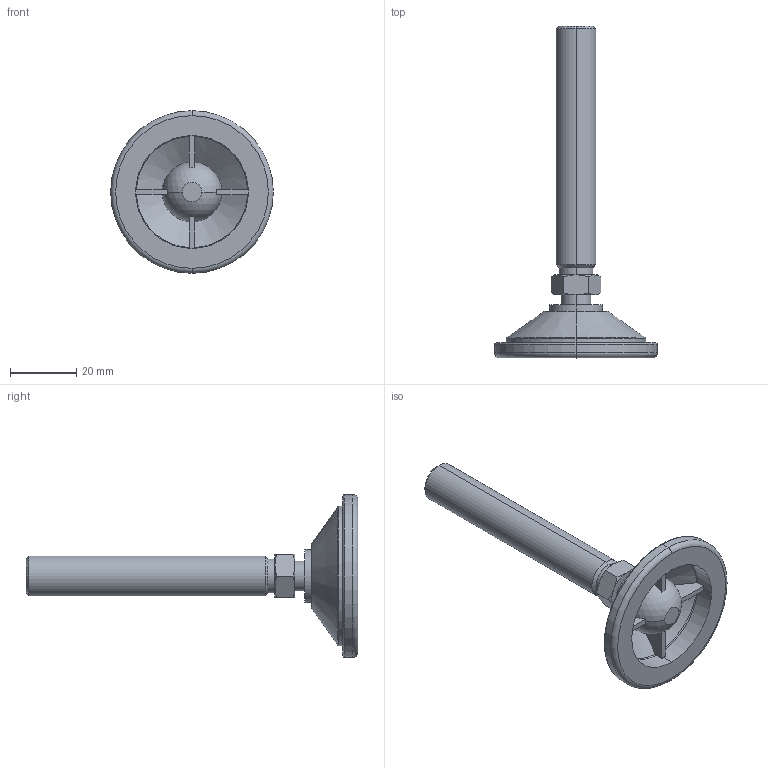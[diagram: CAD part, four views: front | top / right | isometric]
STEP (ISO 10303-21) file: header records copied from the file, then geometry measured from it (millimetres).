
FILE_DESCRIPTION (( 'STEP AP203' ), '1' );
FILE_NAME ('3472.W123.step', '2009-10-21T17:00:09', ( 'Wixroyd' ), ( 'Wixroyd' ), 'SwSTEP 2.0', 'SolidWorks 2009', '' );
FILE_SCHEMA (( 'CONFIG_CONTROL_DESIGN' ));
Length unit declared in the file: millimetre
Products named in the file (3): Part1_3472W123; Part2_3472W123; 3472.W123
Assembly tree (2 placements, depth 2):
  3472.W123
    Part1_3472W123
    Part2_3472W123
Bounding box: 49 x 100 x 49 mm (x, y, z)
Volume: 20173.6 mm3; surface area: 10915.8 mm2
Topology: 2 solids, 2 shells, 95 faces, 231 edges, 145 vertices
Faces by surface type: plane 39, cone 22, cylinder 16, torus 12, sphere 6
Entity records: 3197 total; most frequent: CARTESIAN_POINT 672, DIRECTION 514, ORIENTED_EDGE 446, AXIS2_PLACEMENT_3D 231, EDGE_CURVE 223, VERTEX_POINT 141, CIRCLE 131, EDGE_LOOP 104
